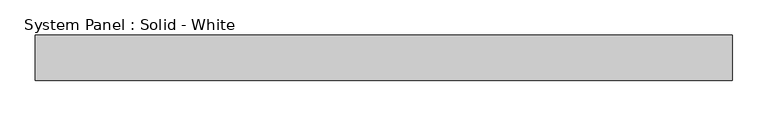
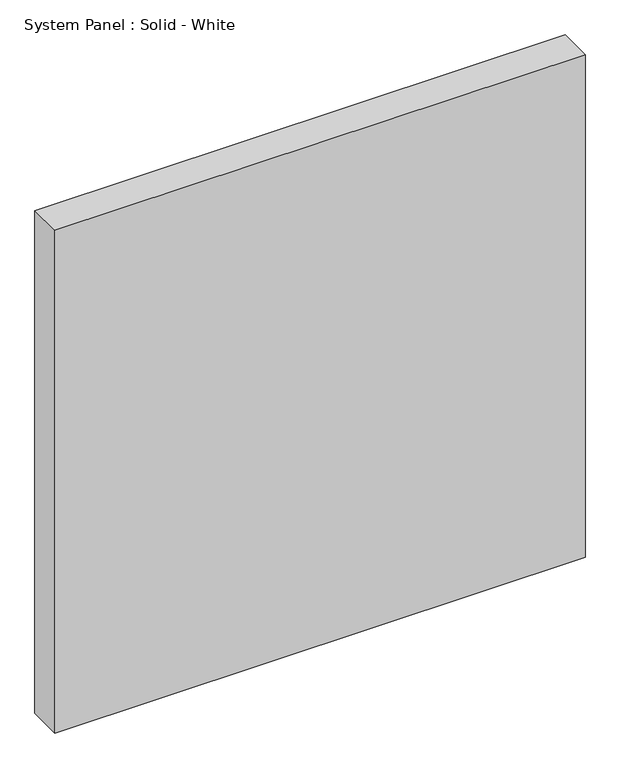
"""IFC4 building model written with IfcOpenShell, lengths in millimetres: plate geometry, System Panel : Solid - White."""

from ifc_helpers import new_model, si_unit, origin, origin_with_axes, place, context, project, spatial, polyline, outline, extrude, source, transform, mapped, element, save


def system_panel_solid_white_98641b7f(model_context):
    return source(origin(), model_context, "Body", "SweptSolid", [
        extrude(outline(polyline([(490.9910714, -19.05), (-490.9910714, -19.05), (-490.9910714, 44.45), (490.9910714, 44.45), (490.9910714, -19.05)])), origin_with_axes(), (0.0, 0.0, 1.0), 984.3895219),
    ])


if __name__ == "__main__":
    model = new_model("IFC4")
    model_context = context("Model", 3, world=origin())
    ifc_project = project(units=[si_unit("LENGTHUNIT", "METRE", prefix="MILLI")], contexts=[model_context])
    site = spatial("IfcSite", under=ifc_project)
    building = spatial("IfcBuilding", under=site)
    placement = place(None, origin())
    system_panel_solid_white_shape = system_panel_solid_white_98641b7f(model_context)
    element("IfcPlate", 1, ObjectType="System Panel : Solid - White", at=placement, inside=building, context=model_context, shape_type="MappedRepresentation", body=[
        mapped(system_panel_solid_white_shape, transform((0.0, 0.0, 0.0), x_axis=(1.0, 0.0, 0.0), y_axis=(0.0, 1.0, 0.0), z_axis=(0.0, 0.0, 1.0))),
    ])
    save(model, "model.ifc")
